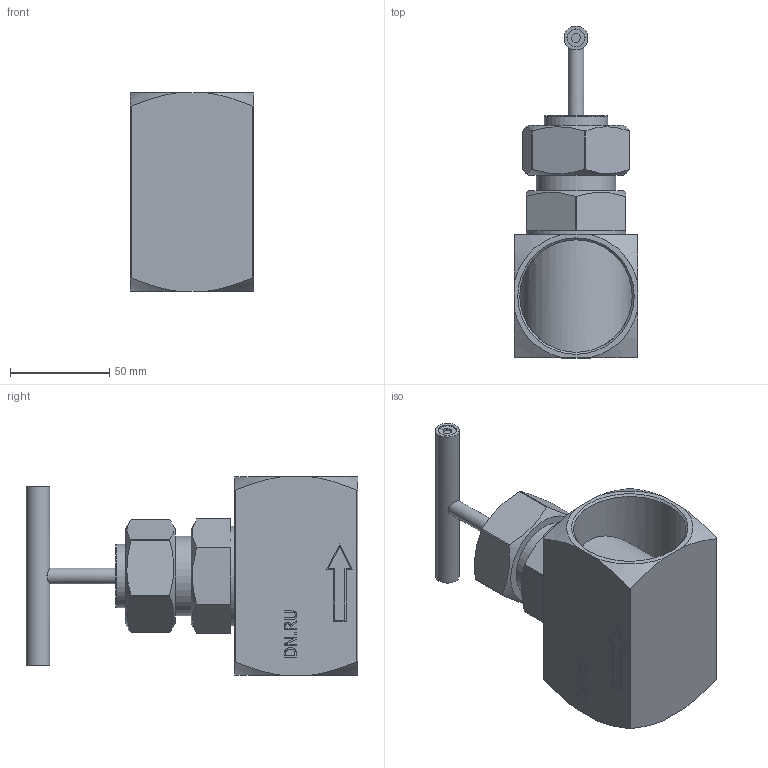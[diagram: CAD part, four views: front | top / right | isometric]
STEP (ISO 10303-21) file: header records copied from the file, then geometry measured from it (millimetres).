
FILE_DESCRIPTION(('STEP AP214'), '1');
FILE_NAME('VN3232M-T-Ht 孰囡囗 桡铍囹 DN.ru 捏50 畜400', '', ('UNSPECIFIED'), ('UNSPECIFIED'), 'C3D Converter', 'C3D Toolkit', '');
FILE_SCHEMA(('AUTOMOTIVE_DESIGN { 1 0 10303 214 3 1 1}'));
Length unit declared in the file: millimetre
Products named in the file (1): VN3232M-T-Ht
Bounding box: 62 x 167 x 100 mm (x, y, z)
Volume: 376531.6 mm3; surface area: 59911.5 mm2
Topology: 1 solids, 1 shells, 174 faces, 444 edges, 293 vertices
Faces by surface type: plane 108, cylinder 29, bspline 23, cone 13, torus 1
Full cylindrical faces by diameter (mm): 8 x1, 8.866 x2, 9.066 x2, 12 x1, 32 x1, 40 x1, 50 x1, 56.657 x2
Entity records: 11952 total; most frequent: CARTESIAN_POINT 6568, ORIENTED_EDGE 854, DIRECTION 660, EDGE_CURVE 427, VERTEX_POINT 293, LINE 264, VECTOR 264, EDGE_LOOP 214
